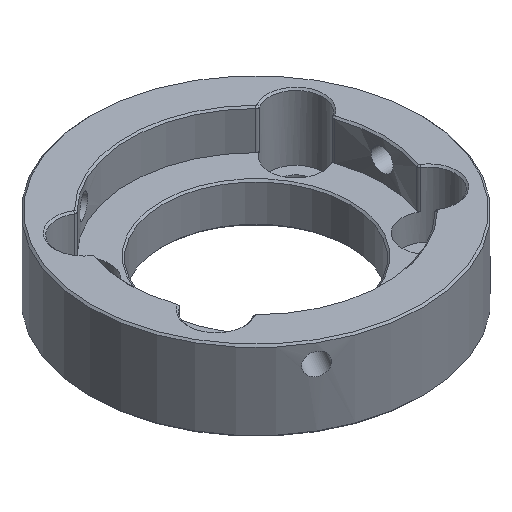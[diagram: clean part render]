
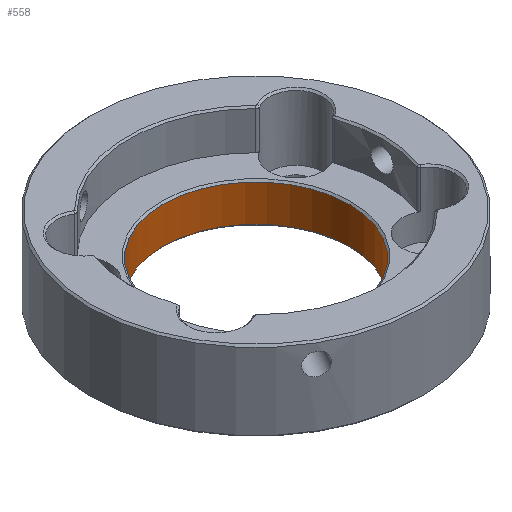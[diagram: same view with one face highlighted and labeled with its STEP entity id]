
A CAD part, isometric view. The second image highlights one B-rep face of the part: STEP entity #558.
In plain terms, the highlighted cylindrical face has radius 14 mm (diameter 28 mm), a full revolution.
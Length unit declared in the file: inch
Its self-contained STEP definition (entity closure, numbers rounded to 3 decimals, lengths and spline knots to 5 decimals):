
#2 = FACE_OUTER_BOUND ( 'NONE', #481, .T. ) ;
#63 = CARTESIAN_POINT ( 'NONE',  ( 0.55118, 0., -0.24621 ) ) ;
#127 = DIRECTION ( 'NONE',  ( 0., 0., -1. ) ) ;
#277 = CIRCLE ( 'NONE', #808, 0.55118 ) ;
#283 = ORIENTED_EDGE ( 'NONE', *, *, #703, .T. ) ;
#478 = CARTESIAN_POINT ( 'NONE',  ( 0.55118, 0., -0.46243 ) ) ;
#481 = EDGE_LOOP ( 'NONE', ( #1558 ) ) ;
#520 = DIRECTION ( 'NONE',  ( 1., 0., 0. ) ) ;
#557 = CARTESIAN_POINT ( 'NONE',  ( 0., 0., -0.46243 ) ) ;
#558 = ADVANCED_FACE ( 'NONE', ( #897, #2 ), #1359, .F. ) ;
#589 = DIRECTION ( 'NONE',  ( 0., 0., 1. ) ) ;
#703 = EDGE_CURVE ( 'NONE', #793, #793, #1028, .T. ) ;
#793 = VERTEX_POINT ( 'NONE', #63 ) ;
#808 = AXIS2_PLACEMENT_3D ( 'NONE', #557, #127, #1009 ) ;
#897 = FACE_OUTER_BOUND ( 'NONE', #1917, .T. ) ;
#970 = EDGE_CURVE ( 'NONE', #1871, #1871, #277, .T. ) ;
#1009 = DIRECTION ( 'NONE',  ( 1., 0., 0. ) ) ;
#1028 = CIRCLE ( 'NONE', #1185, 0.55118 ) ;
#1041 = DIRECTION ( 'NONE',  ( 1., 0., 0. ) ) ;
#1146 = CARTESIAN_POINT ( 'NONE',  ( 0., 0., -0.24621 ) ) ;
#1185 = AXIS2_PLACEMENT_3D ( 'NONE', #1146, #1747, #520 ) ;
#1215 = AXIS2_PLACEMENT_3D ( 'NONE', #1653, #589, #1041 ) ;
#1359 = CYLINDRICAL_SURFACE ( 'NONE', #1215, 0.55118 ) ;
#1558 = ORIENTED_EDGE ( 'NONE', *, *, #970, .T. ) ;
#1653 = CARTESIAN_POINT ( 'NONE',  ( 0., 0., -0.47243 ) ) ;
#1747 = DIRECTION ( 'NONE',  ( 0., 0., 1. ) ) ;
#1871 = VERTEX_POINT ( 'NONE', #478 ) ;
#1917 = EDGE_LOOP ( 'NONE', ( #283 ) ) ;
